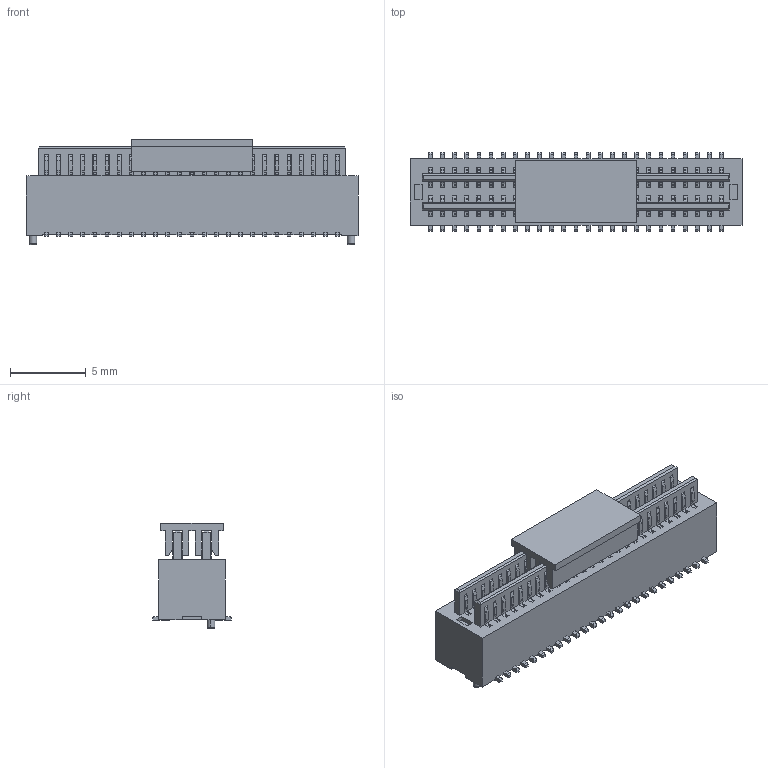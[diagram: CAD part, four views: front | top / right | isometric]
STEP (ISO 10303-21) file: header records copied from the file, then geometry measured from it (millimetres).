
FILE_DESCRIPTION (( 'STEP AP203' ), '1' );
FILE_NAME ('HC-PBB08-2-50-M-H4.0-G1-R-P-04(BTB0.8 双槽 公座 立贴 带柱 编带+盖)-HCTL.STEP', '2025-12-11T06:51:07', ( '' ), ( '' ), 'SwSTEP 2.0', 'SolidWorks 2025', '' );
FILE_SCHEMA (( 'CONFIG_CONTROL_DESIGN' ));
Length unit declared in the file: millimetre
Products named in the file (1): HC-PBB08-2-50-M-H4.0-G1-R-P-04(BTB0.8 双槽 公座 立贴 带柱 编带+盖)-HCTL
Bounding box: 21.89 x 5.2 x 6.95 mm (x, y, z)
Volume: 448.4 mm3; surface area: 2035.8 mm2
Topology: 2 solids, 2 shells, 2930 faces, 9398 edges, 6128 vertices
Faces by surface type: plane 1922, cylinder 1004, torus 4
Entity records: 103897 total; most frequent: CARTESIAN_POINT 19057, ORIENTED_EDGE 18796, DIRECTION 17076, EDGE_CURVE 9398, LINE 7182, VECTOR 7182, VERTEX_POINT 6128, AXIS2_PLACEMENT_3D 4947
